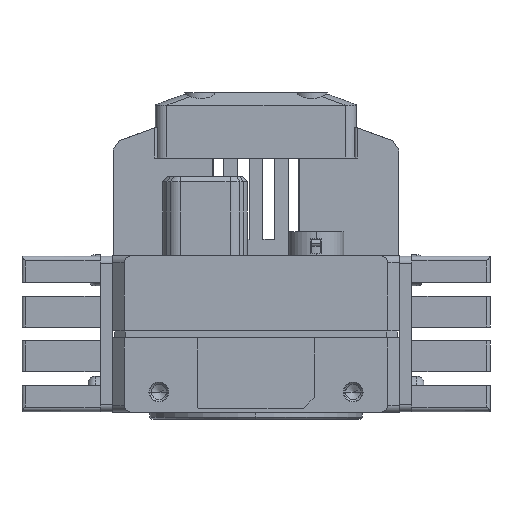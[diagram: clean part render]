
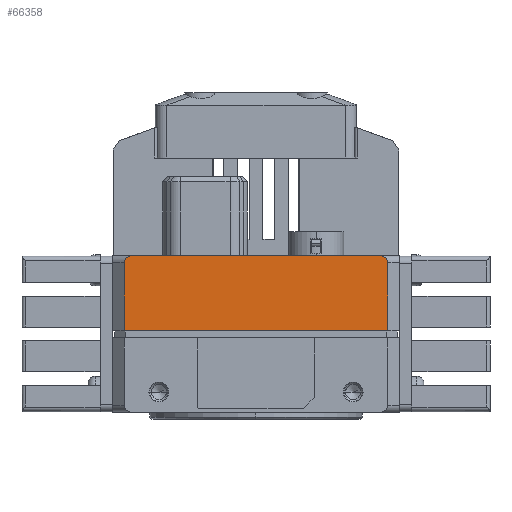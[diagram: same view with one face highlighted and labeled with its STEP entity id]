
A CAD part, left-side view. The second image highlights one B-rep face of the part: STEP entity #66358.
In plain terms, the highlighted planar face has unit normal (-1, 0, 0).
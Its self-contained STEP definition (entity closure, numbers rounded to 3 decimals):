
#15990=DIRECTION('',(0.,0.,1.));
#15991=VECTOR('',#15990,14.7);
#15992=CARTESIAN_POINT('',(-31.,-28.5,7.7));
#15993=LINE('',#15992,#15991);
#15994=CARTESIAN_POINT('',(-31.,-28.5,22.4));
#15995=CARTESIAN_POINT('',(-31.,-28.5,22.476));
#15996=CARTESIAN_POINT('',(-31.,-28.485,22.611));
#15997=CARTESIAN_POINT('',(-31.,-28.416,22.844));
#15998=CARTESIAN_POINT('',(-31.,-28.28,23.086));
#15999=CARTESIAN_POINT('',(-31.,-28.065,23.324));
#16000=CARTESIAN_POINT('',(-31.,-27.722,23.584));
#16001=CARTESIAN_POINT('',(-31.,-27.305,23.77));
#16002=CARTESIAN_POINT('',(-31.,-26.809,23.878));
#16003=CARTESIAN_POINT('',(-31.,-26.53,23.9));
#16004=CARTESIAN_POINT('',(-31.,-26.379,23.9));
#17059=DIRECTION('',(0.,1.,0.));
#17060=VECTOR('',#17059,57.);
#17061=CARTESIAN_POINT('',(-31.,-28.5,7.7));
#17062=LINE('',#17061,#17060);
#17063=CARTESIAN_POINT('',(-31.,28.5,22.4));
#17064=CARTESIAN_POINT('',(-31.,28.5,22.476));
#17065=CARTESIAN_POINT('',(-31.,28.485,22.611));
#17066=CARTESIAN_POINT('',(-31.,28.416,22.844));
#17067=CARTESIAN_POINT('',(-31.,28.28,23.086));
#17068=CARTESIAN_POINT('',(-31.,28.065,23.324));
#17069=CARTESIAN_POINT('',(-31.,27.722,23.584));
#17070=CARTESIAN_POINT('',(-31.,27.305,23.77));
#17071=CARTESIAN_POINT('',(-31.,26.809,23.878));
#17072=CARTESIAN_POINT('',(-31.,26.53,23.9));
#17073=CARTESIAN_POINT('',(-31.,26.379,23.9));
#17075=DIRECTION('',(0.,-1.,0.));
#17076=VECTOR('',#17075,52.757);
#17077=CARTESIAN_POINT('',(-31.,26.379,23.9));
#17078=LINE('',#17077,#17076);
#17083=DIRECTION('',(0.,0.,-1.));
#17084=VECTOR('',#17083,14.7);
#17085=CARTESIAN_POINT('',(-31.,28.5,22.4));
#17086=LINE('',#17085,#17084);
#37411=CARTESIAN_POINT('',(-31.,-26.379,23.9));
#37412=VERTEX_POINT('',#37411);
#37413=CARTESIAN_POINT('',(-31.,26.379,23.9));
#37414=VERTEX_POINT('',#37413);
#37508=CARTESIAN_POINT('',(-31.,28.5,7.7));
#37510=VERTEX_POINT('',#37508);
#37511=CARTESIAN_POINT('',(-31.,-28.5,7.7));
#37513=VERTEX_POINT('',#37511);
#37539=CARTESIAN_POINT('',(-31.,28.5,22.4));
#37540=VERTEX_POINT('',#37539);
#37545=VERTEX_POINT('',#15994);
#66343=CARTESIAN_POINT('',(-31.,0.,15.8));
#66344=DIRECTION('',(1.,0.,0.));
#66345=DIRECTION('',(0.,0.,-1.));
#66346=AXIS2_PLACEMENT_3D('',#66343,#66344,#66345);
#66347=PLANE('',#66346);
#66348=ORIENTED_EDGE('',*,*,#65102,.F.);
#66349=ORIENTED_EDGE('',*,*,#65086,.F.);
#66350=ORIENTED_EDGE('',*,*,#52912,.T.);
#66352=ORIENTED_EDGE('',*,*,#66351,.F.);
#66354=ORIENTED_EDGE('',*,*,#66353,.T.);
#66355=ORIENTED_EDGE('',*,*,#65150,.T.);
#66356=EDGE_LOOP('',(#66348,#66349,#66350,#66352,#66354,#66355));
#66357=FACE_OUTER_BOUND('',#66356,.F.);
#66358=ADVANCED_FACE('',(#66357),#66347,.F.);
#16005=B_SPLINE_CURVE_WITH_KNOTS('',3,(#15994,#15995,#15996,#15997,#15998,
#15999,#16000,#16001,#16002,#16003,#16004),.UNSPECIFIED.,.F.,.F.,(4,1,1,1,1,1,1,
1,4),(0.,0.063,0.125,0.25,0.375,0.5,0.75,0.875,1.),
.UNSPECIFIED.);
#17074=B_SPLINE_CURVE_WITH_KNOTS('',3,(#17063,#17064,#17065,#17066,#17067,
#17068,#17069,#17070,#17071,#17072,#17073),.UNSPECIFIED.,.F.,.F.,(4,1,1,1,1,1,1,
1,4),(0.,0.063,0.125,0.25,0.375,0.5,0.75,0.875,1.),
.UNSPECIFIED.);
#52912=EDGE_CURVE('',#37513,#37510,#17062,.T.);
#65086=EDGE_CURVE('',#37513,#37545,#15993,.T.);
#65102=EDGE_CURVE('',#37545,#37412,#16005,.T.);
#65150=EDGE_CURVE('',#37414,#37412,#17078,.T.);
#66351=EDGE_CURVE('',#37540,#37510,#17086,.T.);
#66353=EDGE_CURVE('',#37540,#37414,#17074,.T.);
